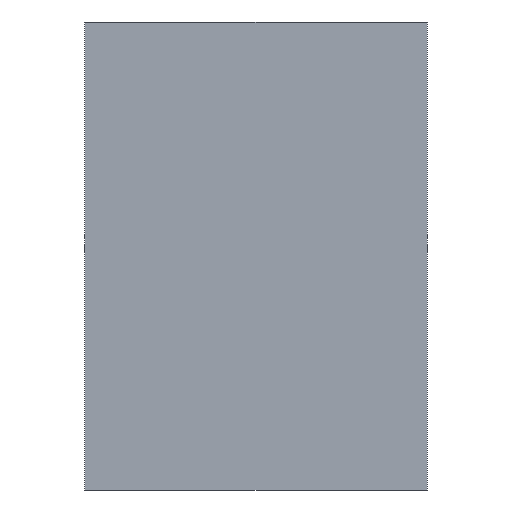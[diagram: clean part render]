
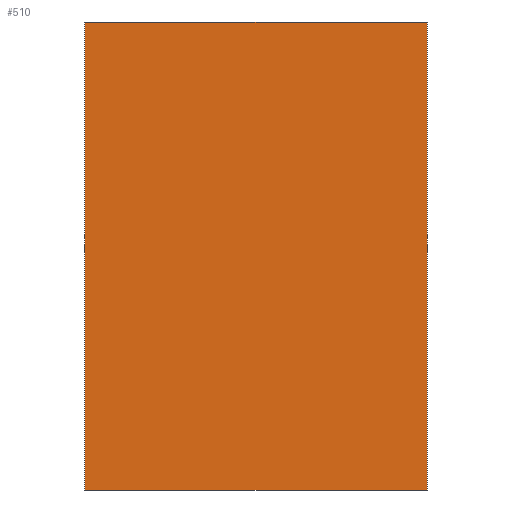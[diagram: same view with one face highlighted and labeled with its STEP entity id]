
A CAD part, front view. The second image highlights one B-rep face of the part: STEP entity #510.
In plain terms, the highlighted planar face has unit normal (0, -1, 0).
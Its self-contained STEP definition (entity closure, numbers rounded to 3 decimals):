
#394=DIRECTION('',(1.,0.,0.));
#395=VECTOR('',#394,534.);
#396=CARTESIAN_POINT('',(-267.,0.,0.));
#397=LINE('',#396,#395);
#402=DIRECTION('',(0.,0.,-1.));
#403=VECTOR('',#402,730.6);
#404=CARTESIAN_POINT('',(267.,0.,0.));
#405=LINE('',#404,#403);
#409=DIRECTION('',(-1.,0.,0.));
#410=VECTOR('',#409,534.);
#411=CARTESIAN_POINT('',(267.,0.,-730.6));
#412=LINE('',#411,#410);
#416=DIRECTION('',(0.,0.,1.));
#417=VECTOR('',#416,730.6);
#418=CARTESIAN_POINT('',(-267.,0.,-730.6));
#419=LINE('',#418,#417);
#479=CARTESIAN_POINT('',(-267.,0.,0.));
#480=CARTESIAN_POINT('',(267.,0.,0.));
#481=VERTEX_POINT('',#479);
#482=VERTEX_POINT('',#480);
#483=CARTESIAN_POINT('',(267.,0.,-730.6));
#484=VERTEX_POINT('',#483);
#485=CARTESIAN_POINT('',(-267.,0.,-730.6));
#486=VERTEX_POINT('',#485);
#495=CARTESIAN_POINT('',(0.,0.,0.));
#496=DIRECTION('',(0.,1.,0.));
#497=DIRECTION('',(1.,0.,0.));
#498=AXIS2_PLACEMENT_3D('',#495,#496,#497);
#499=PLANE('',#498);
#501=ORIENTED_EDGE('',*,*,#500,.T.);
#503=ORIENTED_EDGE('',*,*,#502,.T.);
#505=ORIENTED_EDGE('',*,*,#504,.T.);
#507=ORIENTED_EDGE('',*,*,#506,.T.);
#508=EDGE_LOOP('',(#501,#503,#505,#507));
#509=FACE_OUTER_BOUND('',#508,.F.);
#500=EDGE_CURVE('',#481,#482,#397,.T.);
#502=EDGE_CURVE('',#482,#484,#405,.T.);
#504=EDGE_CURVE('',#484,#486,#412,.T.);
#506=EDGE_CURVE('',#486,#481,#419,.T.);
#510=ADVANCED_FACE('',(#509),#499,.F.);
